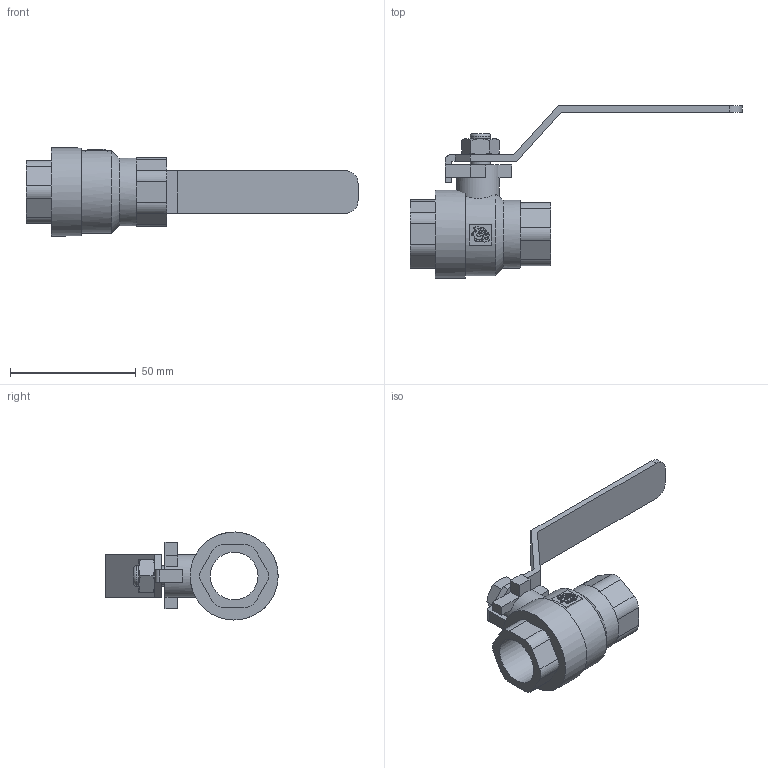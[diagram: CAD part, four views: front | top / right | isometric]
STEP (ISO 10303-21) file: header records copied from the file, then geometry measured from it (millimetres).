
FILE_DESCRIPTION(('STEP AP203'), '1');
FILE_NAME('7014-015-63', '', ('UNSPECIFIED'), ('UNSPECIFIED'), 'C3D Converter', 'C3D Toolkit', '');
FILE_SCHEMA(('CONFIG_CONTROL_DESIGN'));
Length unit declared in the file: millimetre
Bounding box: 132 x 68.5 x 35 mm (x, y, z)
Volume: 33571 mm3; surface area: 16450.9 mm2
Topology: 10 solids, 10 shells, 930 faces, 2704 edges, 1799 vertices
Faces by surface type: plane 904, cylinder 22, cone 3, torus 1
Full cylindrical faces by diameter (mm): 8 x2, 17 x1, 19 x1, 27 x1, 35 x1
Entity records: 38476 total; most frequent: CARTESIAN_POINT 6326, ORIENTED_EDGE 5388, DIRECTION 4622, EDGE_CURVE 2694, LINE 2590, VECTOR 2590, VERTEX_POINT 1799, AXIS2_PLACEMENT_3D 1016
